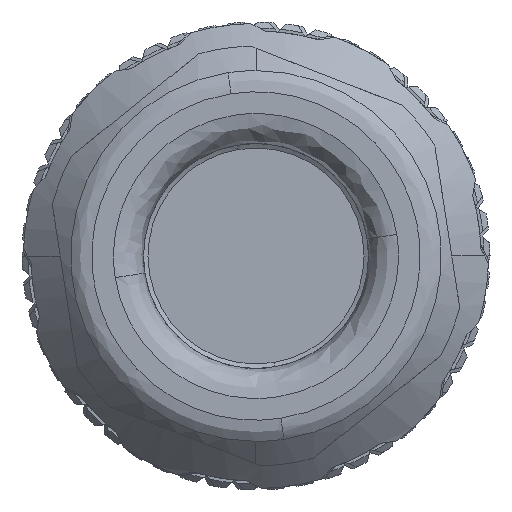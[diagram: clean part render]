
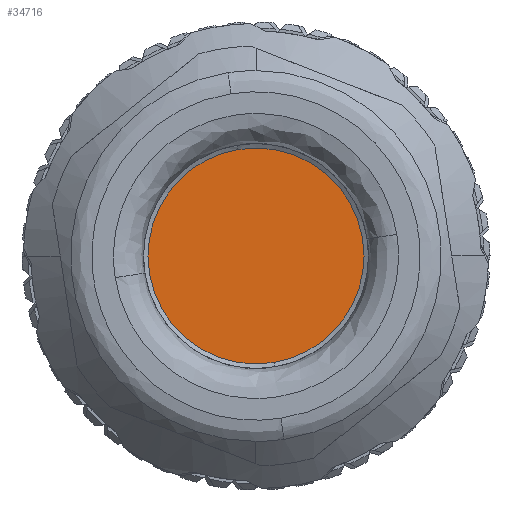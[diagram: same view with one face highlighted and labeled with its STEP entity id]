
A CAD part, left-side view. The second image highlights one B-rep face of the part: STEP entity #34716.
In plain terms, the highlighted planar face has unit normal (-1, 0, 0).
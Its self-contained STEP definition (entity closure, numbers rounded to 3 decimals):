
#273 = PLANE ( 'NONE',  #25775 ) ;
#1979 = CARTESIAN_POINT ( 'NONE',  ( 0.882, 7.234, 9.871 ) ) ;
#2150 = CARTESIAN_POINT ( 'NONE',  ( 0.882, -5.395, 0.919 ) ) ;
#2350 = EDGE_CURVE ( 'NONE', #35540, #47539, #18476, .T. ) ;
#4343 = FACE_OUTER_BOUND ( 'NONE', #10472, .T. ) ;
#4596 = CARTESIAN_POINT ( 'NONE',  ( 0.882, -5.395, 0.919 ) ) ;
#4693 = CARTESIAN_POINT ( 'NONE',  ( 0.882, 0., 0. ) ) ;
#5902 = CARTESIAN_POINT ( 'NONE',  ( 0.882, 5.395, -0.919 ) ) ;
#10472 = EDGE_LOOP ( 'NONE', ( #26888, #23368 ) ) ;
#18476 =( BOUNDED_CURVE ( )  B_SPLINE_CURVE ( 3, ( #5902, #1979, #42873, #2150 ),
 .UNSPECIFIED., .F., .F. ) 
 B_SPLINE_CURVE_WITH_KNOTS ( ( 4, 4 ),
 ( 0., 1. ),
 .UNSPECIFIED. ) 
 CURVE ( )  GEOMETRIC_REPRESENTATION_ITEM ( )  RATIONAL_B_SPLINE_CURVE ( ( 1., 0.333, 0.333, 1. ) ) 
 REPRESENTATION_ITEM ( '' )  );
#20278 = CARTESIAN_POINT ( 'NONE',  ( 0.882, 3.556, -11.709 ) ) ;
#21162 = CARTESIAN_POINT ( 'NONE',  ( 0.882, -5.395, 0.919 ) ) ;
#23368 = ORIENTED_EDGE ( 'NONE', *, *, #2350, .F. ) ;
#24358 = CARTESIAN_POINT ( 'NONE',  ( 0.882, 5.395, -0.919 ) ) ;
#25775 = AXIS2_PLACEMENT_3D ( 'NONE', #4693, #36936, #36582 ) ;
#26888 = ORIENTED_EDGE ( 'NONE', *, *, #47342, .F. ) ;
#34716 = ADVANCED_FACE ( 'NONE', ( #4343 ), #273, .F. ) ;
#35540 = VERTEX_POINT ( 'NONE', #43211 ) ;
#36582 = DIRECTION ( 'NONE',  ( 0., 1., 0. ) ) ;
#36936 = DIRECTION ( 'NONE',  ( 1., 0., 0. ) ) ;
#40713 = CARTESIAN_POINT ( 'NONE',  ( 0.882, -7.234, -9.871 ) ) ;
#42104 =( BOUNDED_CURVE ( )  B_SPLINE_CURVE ( 3, ( #4596, #40713, #20278, #24358 ),
 .UNSPECIFIED., .F., .T. ) 
 B_SPLINE_CURVE_WITH_KNOTS ( ( 4, 4 ),
 ( 0., 1. ),
 .UNSPECIFIED. ) 
 CURVE ( )  GEOMETRIC_REPRESENTATION_ITEM ( )  RATIONAL_B_SPLINE_CURVE ( ( 1., 0.333, 0.333, 1. ) ) 
 REPRESENTATION_ITEM ( '' )  );
#42873 = CARTESIAN_POINT ( 'NONE',  ( 0.882, -3.556, 11.709 ) ) ;
#43211 = CARTESIAN_POINT ( 'NONE',  ( 0.882, 5.395, -0.919 ) ) ;
#47342 = EDGE_CURVE ( 'NONE', #47539, #35540, #42104, .T. ) ;
#47539 = VERTEX_POINT ( 'NONE', #21162 ) ;
